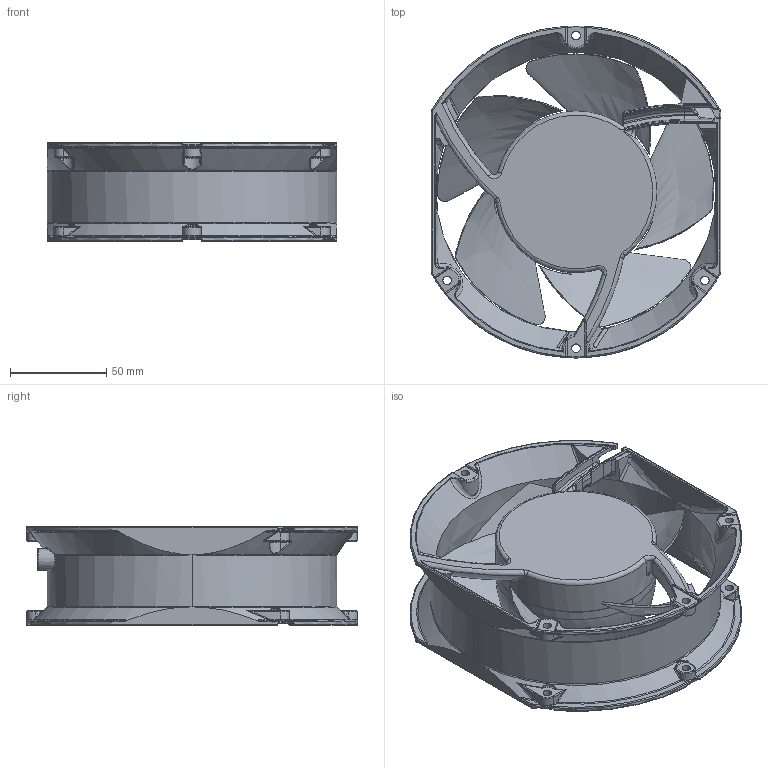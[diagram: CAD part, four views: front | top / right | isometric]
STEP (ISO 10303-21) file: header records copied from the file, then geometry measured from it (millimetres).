
FILE_DESCRIPTION (( 'STEP AP203' ), '1' );
FILE_NAME ('17251 ADW RIBLESS.STEP', '2021-09-10T09:21:08', ( '' ), ( '' ), 'SwSTEP 2.0', 'SolidWorks 2019', '' );
FILE_SCHEMA (( 'CONFIG_CONTROL_DESIGN' ));
Length unit declared in the file: millimetre
Products named in the file (1): 17251 ADW RIBLESS
Bounding box: 150 x 171.99 x 51 mm (x, y, z)
Volume: 363430.4 mm3; surface area: 109666.8 mm2
Topology: 1 solids, 1 shells, 1089 faces, 2726 edges, 1559 vertices
Faces by surface type: bspline 437, cylinder 233, torus 192, plane 149, cone 41, sphere 37
Entity records: 55546 total; most frequent: CARTESIAN_POINT 33525, ORIENTED_EDGE 5292, DIRECTION 3760, EDGE_CURVE 2646, AXIS2_PLACEMENT_3D 1662, VERTEX_POINT 1558, B_SPLINE_CURVE_WITH_KNOTS 1163, EDGE_LOOP 1110
